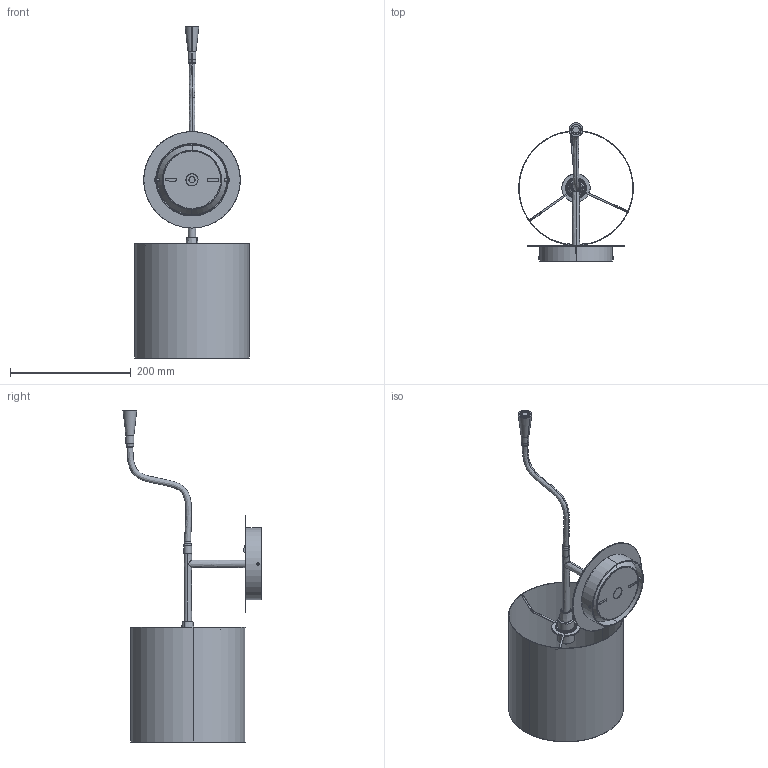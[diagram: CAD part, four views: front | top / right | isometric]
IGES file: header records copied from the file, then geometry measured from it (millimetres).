
Start section: SolidWorks IGES file using analytic representation for surfaces
Global section: file name: C:\Users\libre2.DOMINIO\Desktop\CARPYEN\3D\DAIFUKU\HOTEL PYTHON.IGS; native system: SolidWorks 2014; preprocessor: SolidWorks 2014; author: libre2; date: 170515.100156; units: millimetre
Bounding box: 190 x 229 x 550.57 mm (x, y, z)
Surface area: 346377.3 mm2 (no closed solid volume)
Topology: 0 solids, 0 shells, 206 faces, 3912 edges, 3912 vertices
Faces by surface type: revolution 105, bspline 101
